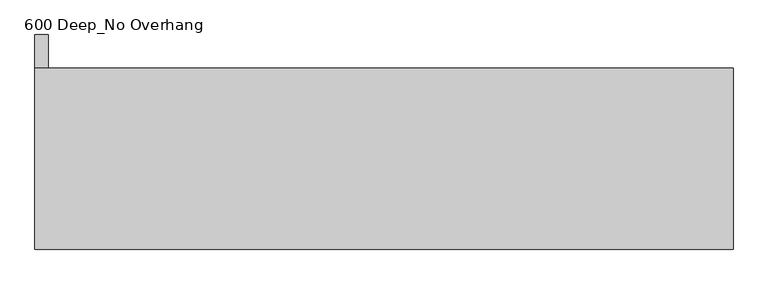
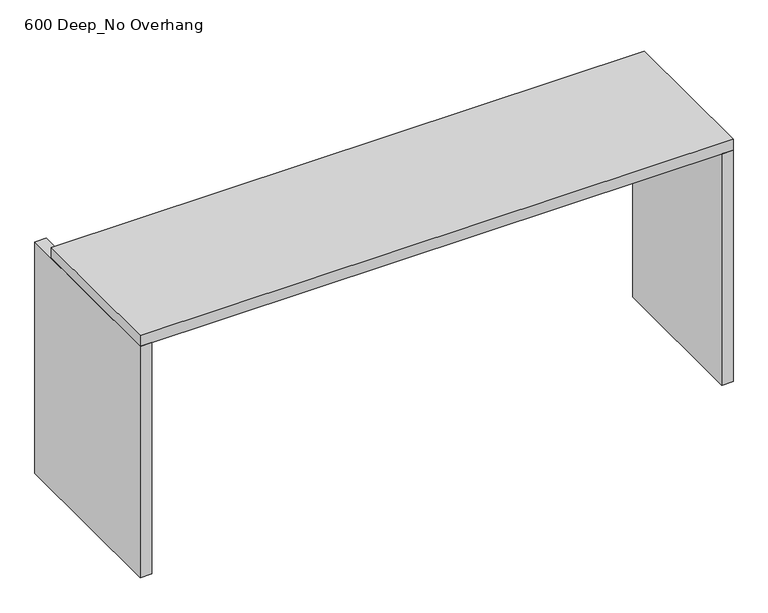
"""IFC4 building model written with IfcOpenShell, lengths in millimetres: furniture geometry, Benchtop_Optional Hole_I Shaped_CAS : 600 Deep_No Overhang."""

import ifcopenshell
import ifcopenshell.guid

model = None  # the IFC model being written
_history = None  # IfcOwnerHistory: only IFC2X3 demands one
_inside = {}  # id of a spatial element -> (the spatial element, [elements in it])
_under = {}  # id of a project, library or spatial element -> (it, [spatial elements below it])
_declared = {}  # id of a project -> (the project, [libraries it declares])
_typed = {}  # id of a type object -> (the type object, [elements of that type])
_made_of = {}  # id of a material, layer set ... -> (it, [elements and type objects made of it])


def new_model(schema):
    """Start an empty IFC model of exactly this schema.

    Asked for "IFC4X3", IfcOpenShell would pick the latest addendum, in which some entities
    have other attributes; the version numbers below select the first issue.
    IFC2X3 requires an IfcOwnerHistory on every rooted entity: one is made here for all.
    """
    global model, _history
    if schema == "IFC4X3":
        model = ifcopenshell.file(schema_version=(4, 3, 0, 0))
    else:
        model = ifcopenshell.file(schema=schema)
    _inside.clear()
    _under.clear()
    _declared.clear()
    _typed.clear()
    _made_of.clear()
    _history = None
    if model.schema == "IFC2X3":
        org = make("IfcOrganization", Name="unknown")
        user = make(
            "IfcPersonAndOrganization",
            ThePerson=make("IfcPerson", FamilyName="unknown"),
            TheOrganization=org,
        )
        app = make(
            "IfcApplication",
            ApplicationDeveloper=org,
            Version="unknown",
            ApplicationFullName="unknown",
            ApplicationIdentifier="unknown",
        )
        _history = make(
            "IfcOwnerHistory",
            OwningUser=user,
            OwningApplication=app,
            ChangeAction="ADDED",
            CreationDate=0,
        )
    return model


def make(cls, **values):
    """One entity of the class cls with the attributes given. An attribute that is None is left unset."""
    return model.create_entity(
        cls, **{name: value for name, value in values.items() if value is not None}
    )


def rooted(cls, **values):
    """An entity with a GlobalId (a new one), such as an element, a storey or a relation."""
    return make(cls, GlobalId=ifcopenshell.guid.new(), OwnerHistory=_history, **values)


def si_unit(unit_type, name, prefix=None):
    """IfcSIUnit, for example si_unit("LENGTHUNIT", "METRE", prefix="MILLI")."""
    return make("IfcSIUnit", UnitType=unit_type, Prefix=prefix, Name=name)


def assignment(units):
    """IfcUnitAssignment: the units of a project."""
    return None if units is None else make("IfcUnitAssignment", Units=units)


def point(xyz):
    """IfcCartesianPoint."""
    return None if xyz is None else make("IfcCartesianPoint", Coordinates=xyz)


def direction(xyz):
    """IfcDirection."""
    return None if xyz is None else make("IfcDirection", DirectionRatios=xyz)


def frame(location, z_axis=None, x_axis=None):
    """IfcAxis2Placement3D, a coordinate frame: its origin and axes. An axis left out is left unset."""
    return make(
        "IfcAxis2Placement3D",
        Location=point(location),
        Axis=direction(z_axis),
        RefDirection=direction(x_axis),
    )


def origin():
    """The frame at (0, 0, 0) with its axes left unset."""
    return frame((0.0, 0.0, 0.0))


def origin_with_axes():
    """The frame at (0, 0, 0) with the z axis (0, 0, 1) and the x axis (1, 0, 0) written out."""
    return frame((0.0, 0.0, 0.0), z_axis=(0.0, 0.0, 1.0), x_axis=(1.0, 0.0, 0.0))


def place(relative_to, where):
    """IfcLocalPlacement: puts the frame where relative to a parent placement (None: the world)."""
    return make(
        "IfcLocalPlacement", PlacementRelTo=relative_to, RelativePlacement=where
    )


def context(
    kind, dimensions, precision=None, world=None, true_north=None, identifier=None
):
    """IfcGeometricRepresentationContext, for example the 3D "Model" context."""
    return make(
        "IfcGeometricRepresentationContext",
        ContextIdentifier=identifier,
        ContextType=kind,
        CoordinateSpaceDimension=dimensions,
        Precision=precision,
        WorldCoordinateSystem=world,
        TrueNorth=true_north,
    )


def project(units=None, contexts=None):
    """IfcProject with its units and contexts."""
    return rooted(
        "IfcProject",
        Name="project",
        RepresentationContexts=contexts,
        UnitsInContext=assignment(units),
    )


def spatial(cls, under=None, at=None, **own):
    """A site, building, storey or space (cls), placed at a placement, below another one or the project."""
    s = rooted(cls, ObjectPlacement=at, **own)
    if under is not None:
        _under.setdefault(under.id(), (under, []))[1].append(s)
    return s


def polyline(points):
    """IfcPolyline through the points."""
    return make("IfcPolyline", Points=[point(p) for p in points])


def outline(outer, holes=None, kind="AREA"):
    """IfcArbitraryClosedProfileDef: a profile drawn as a closed curve; with holes, ...WithVoids."""
    if holes is None:
        return make("IfcArbitraryClosedProfileDef", ProfileType=kind, OuterCurve=outer)
    return make(
        "IfcArbitraryProfileDefWithVoids",
        ProfileType=kind,
        OuterCurve=outer,
        InnerCurves=holes,
    )


def extrude(swept, where, along, depth):
    """IfcExtrudedAreaSolid: the profile swept, set in the frame where, extruded along a direction by depth."""
    return make(
        "IfcExtrudedAreaSolid",
        SweptArea=swept,
        Position=where,
        ExtrudedDirection=direction(along),
        Depth=depth,
    )


def shape(context_of_items, identifier, shape_type, items):
    """IfcShapeRepresentation: the items that make up one representation, for example the "Body"."""
    return make(
        "IfcShapeRepresentation",
        ContextOfItems=context_of_items,
        RepresentationIdentifier=identifier,
        RepresentationType=shape_type,
        Items=items,
    )


def source(mapping_origin, context_of_items, identifier, shape_type, items):
    """IfcRepresentationMap: a shape defined once, which mapped items show again and again."""
    return make(
        "IfcRepresentationMap",
        MappingOrigin=mapping_origin,
        MappedRepresentation=shape(context_of_items, identifier, shape_type, items),
    )


def transform(
    local_origin,
    x_axis=None,
    y_axis=None,
    z_axis=None,
    scale=None,
    scale2=None,
    scale3=None,
    uniform=True,
):
    """IfcCartesianTransformationOperator3D, or its non-uniform kind. x_axis, y_axis, z_axis: its Axis1, 2, 3."""
    if uniform:
        return make(
            "IfcCartesianTransformationOperator3D",
            Axis1=direction(x_axis),
            Axis2=direction(y_axis),
            LocalOrigin=point(local_origin),
            Scale=scale,
            Axis3=direction(z_axis),
        )
    return make(
        "IfcCartesianTransformationOperator3DnonUniform",
        Axis1=direction(x_axis),
        Axis2=direction(y_axis),
        LocalOrigin=point(local_origin),
        Scale=scale,
        Axis3=direction(z_axis),
        Scale2=scale2,
        Scale3=scale3,
    )


def mapped(mapping_source, mapping_target):
    """IfcMappedItem: shows the shape of a source again, moved by a transform."""
    return make(
        "IfcMappedItem", MappingSource=mapping_source, MappingTarget=mapping_target
    )


def made_of(thing, what):
    """Note that an element or type object is made of a material, layer set ...; save() writes the relation."""
    if what is not None:
        _made_of.setdefault(what.id(), (what, []))[1].append(thing)
    return thing


def element(
    cls,
    number,
    at=None,
    inside=None,
    cuts=None,
    type_object=None,
    material=None,
    context=None,
    identifier="Body",
    shape_type=None,
    held_by="IfcProductDefinitionShape",
    body=None,
    shapes=None,
    **own,
):
    """One element of the class cls, such as IfcWall. Its Tag is "e" and its number.

    at: its placement. inside: the storey or other place that contains it. cuts: it is an
    opening in that element (IfcRelVoidsElement). A single representation is given by context,
    identifier, shape_type and body (its items); several are given by shapes. held_by: the class
    of the entity that holds the representations. save() writes the other relations.
    """
    e = rooted(cls, Tag="e%d" % number, ObjectPlacement=at, **own)
    if body is not None:
        shapes = [shape(context, identifier, shape_type, body)]
    if shapes is not None:
        e.Representation = make(held_by, Representations=shapes)
    if inside is not None:
        _inside.setdefault(inside.id(), (inside, []))[1].append(e)
    if cuts is not None:
        rooted(
            "IfcRelVoidsElement", RelatingBuildingElement=cuts, RelatedOpeningElement=e
        )
    if type_object is not None:
        _typed.setdefault(type_object.id(), (type_object, []))[1].append(e)
    return made_of(e, material)


def aggregate(whole, parts):
    """IfcRelAggregates: a whole, such as a stair, and the parts it consists of."""
    return rooted("IfcRelAggregates", RelatingObject=whole, RelatedObjects=parts)


def save(model, path):
    """Write the relations noted so far, then the file.

    IfcRelAggregates (storeys below a building ...), IfcRelContainedInSpatialStructure (elements
    in a storey), IfcRelDefinesByType, IfcRelAssociatesMaterial and IfcRelDeclares: one each for
    every whole, place, type object, material and project.
    """
    for whole, parts in _under.values():
        aggregate(whole, parts)
    for where, things in _inside.values():
        rooted(
            "IfcRelContainedInSpatialStructure",
            RelatedElements=things,
            RelatingStructure=where,
        )
    for kind, things in _typed.values():
        rooted("IfcRelDefinesByType", RelatedObjects=things, RelatingType=kind)
    for what, things in _made_of.values():
        rooted("IfcRelAssociatesMaterial", RelatedObjects=things, RelatingMaterial=what)
    for by, libraries in _declared.values():
        rooted("IfcRelDeclares", RelatingContext=by, RelatedDefinitions=libraries)
    model.write(path)


def furniture_600_deep_no_overhang_2546275f(model_context):
    return source(origin(), model_context, "Body", "SweptSolid", [
        extrude(outline(polyline([(886.6456217, -540.0), (886.6456217, 0.0), (926.6456217, 0.0), (926.6456217, -540.0), (886.6456217, -540.0)])), origin_with_axes(), (0.0, 0.0, 1.0), 860.0),
        extrude(outline(polyline([(-1115.2996736, 100.0), (-1115.2996736, -540.0), (-1155.2996736, -540.0), (-1155.2996736, 100.0), (-1115.2996736, 100.0)])), origin_with_axes(), (0.0, 0.0, 1.0), 860.0),
        extrude(outline(polyline([(926.6456217, 0.0), (926.6456217, -540.0), (-1155.2996736, -540.0), (-1155.2996736, 0.0), (926.6456217, 0.0)])), frame((0.0, 0.0, 860.0), z_axis=(0.0, 0.0, 1.0), x_axis=(1.0, 0.0, 0.0)), (0.0, 0.0, 1.0), 40.0),
    ])


if __name__ == "__main__":
    model = new_model("IFC4")
    model_context = context("Model", 3, world=origin())
    ifc_project = project(units=[si_unit("LENGTHUNIT", "METRE", prefix="MILLI")], contexts=[model_context])
    site = spatial("IfcSite", under=ifc_project)
    building = spatial("IfcBuilding", under=site)
    placement = place(None, origin())
    furniture_600_deep_no_overhang_shape = furniture_600_deep_no_overhang_2546275f(model_context)
    element("IfcFurniture", 1, ObjectType="Benchtop_Optional Hole_I Shaped_CAS : 600 Deep_No Overhang", at=placement, inside=building, context=model_context, shape_type="MappedRepresentation", body=[
        mapped(furniture_600_deep_no_overhang_shape, transform((0.0, 0.0, 0.0), x_axis=(1.0, 0.0, 0.0), y_axis=(0.0, 1.0, 0.0), z_axis=(0.0, 0.0, 1.0))),
    ])
    save(model, "model.ifc")
